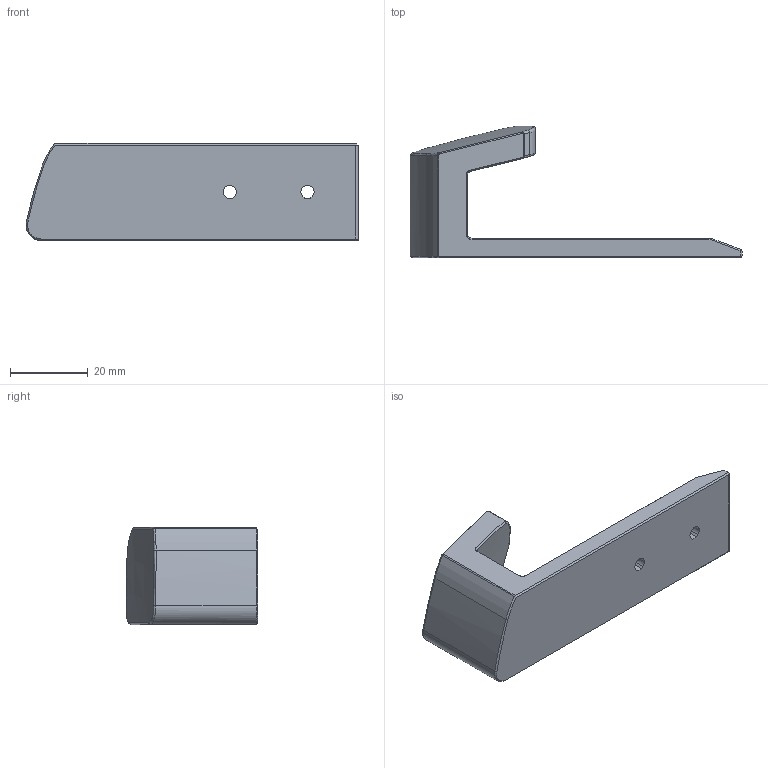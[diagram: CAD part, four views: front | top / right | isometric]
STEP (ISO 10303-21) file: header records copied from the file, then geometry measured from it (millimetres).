
FILE_DESCRIPTION (( 'STEP AP214' ), '1' );
FILE_NAME ('Pot Lid Holder 2 parts.STEP', '2025-06-17T18:40:04', ( '' ), ( '' ), 'SwSTEP 2.0', 'SolidWorks 2012', '' );
FILE_SCHEMA (( 'AUTOMOTIVE_DESIGN' ));
Length unit declared in the file: millimetre
Products named in the file (1): Pot Lid Holder 2 parts
Bounding box: 85.44 x 33.85 x 25 mm (x, y, z)
Volume: 17138.1 mm3; surface area: 7631.3 mm2
Topology: 1 solids, 1 shells, 89 faces, 218 edges, 129 vertices
Faces by surface type: bspline 30, plane 25, cylinder 19, cone 9, torus 5, sphere 1
Entity records: 3961 total; most frequent: CARTESIAN_POINT 2115, ORIENTED_EDGE 432, DIRECTION 297, EDGE_CURVE 216, VERTEX_POINT 129, AXIS2_PLACEMENT_3D 113, EDGE_LOOP 93, ADVANCED_FACE 89
